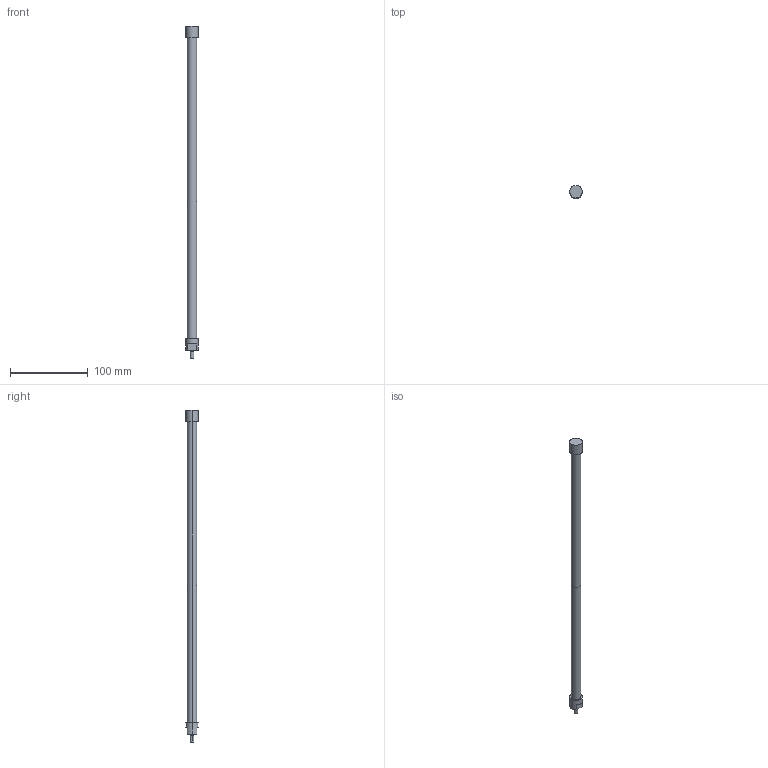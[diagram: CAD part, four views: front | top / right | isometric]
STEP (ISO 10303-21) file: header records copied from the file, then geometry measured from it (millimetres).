
FILE_DESCRIPTION(('STEP AP214'),'1');
FILE_NAME('ETT-R025M425.stp','2015-02-04T08:10:59',(' '),(' '),'Spatial InterOp 3D',' ',' ');
FILE_SCHEMA(('automotive_design'));
Length unit declared in the file: metre
Products named in the file (2): 1; 2
Bounding box: 16 x 16 x 426 mm (x, y, z)
Volume: 32925.8 mm3; surface area: 23161.6 mm2
Topology: 1 solids, 5 shells, 24 faces, 56 edges, 42 vertices
Faces by surface type: cylinder 12, plane 12
Entity records: 952 total; most frequent: DIRECTION 142, CARTESIAN_POINT 124, ORIENTED_EDGE 100, AXIS2_PLACEMENT_3D 60, EDGE_CURVE 56, VERTEX_POINT 42, CIRCLE 34, EDGE_LOOP 28
